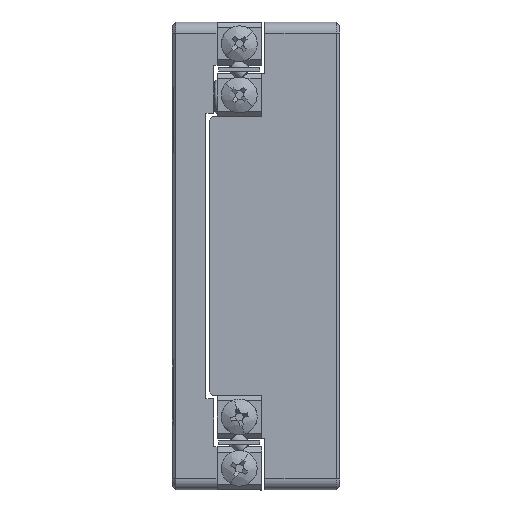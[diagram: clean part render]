
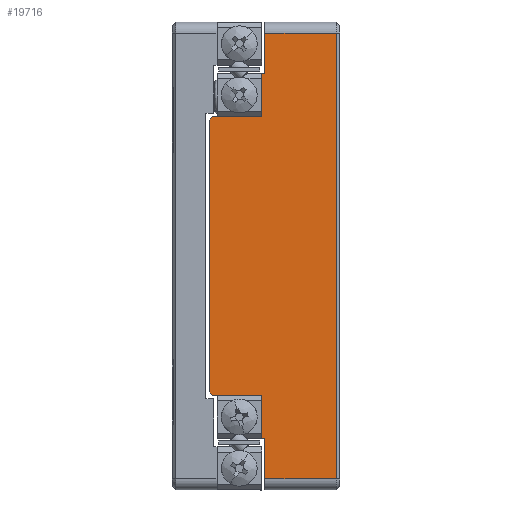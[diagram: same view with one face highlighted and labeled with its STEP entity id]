
A CAD part, left-side view. The second image highlights one B-rep face of the part: STEP entity #19716.
In plain terms, the highlighted planar face has unit normal (-1, 0, 0).
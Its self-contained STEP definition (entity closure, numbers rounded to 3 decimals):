
#44 = CARTESIAN_POINT ( 'NONE',  ( -21.5, 7., -12.5 ) ) ;
#712 = DIRECTION ( 'NONE',  ( 0., 0., -1. ) ) ;
#1118 = DIRECTION ( 'NONE',  ( 0., 0., 1. ) ) ;
#1147 = VERTEX_POINT ( 'NONE', #15265 ) ;
#1236 = VERTEX_POINT ( 'NONE', #12404 ) ;
#1288 = VECTOR ( 'NONE', #9066, 1000. ) ;
#1304 = LINE ( 'NONE', #5877, #34697 ) ;
#1536 = EDGE_CURVE ( 'NONE', #8745, #8864, #7477, .T. ) ;
#1618 = VECTOR ( 'NONE', #12950, 1000. ) ;
#1656 = EDGE_CURVE ( 'NONE', #11144, #1236, #36892, .T. ) ;
#1826 = VECTOR ( 'NONE', #1118, 1000. ) ;
#1856 = CARTESIAN_POINT ( 'NONE',  ( -21.5, 6.7, -20. ) ) ;
#1911 = CARTESIAN_POINT ( 'NONE',  ( -21.5, 11.7, 16.4 ) ) ;
#2391 = VECTOR ( 'NONE', #14962, 1000. ) ;
#2721 = ORIENTED_EDGE ( 'NONE', *, *, #36477, .F. ) ;
#3009 = CARTESIAN_POINT ( 'NONE',  ( -21.5, 7., 16.4 ) ) ;
#3354 = CARTESIAN_POINT ( 'NONE',  ( -21.5, 7., 12.5 ) ) ;
#3405 = LINE ( 'NONE', #5096, #17633 ) ;
#3889 = DIRECTION ( 'NONE',  ( 0., 1., 0. ) ) ;
#3952 = VERTEX_POINT ( 'NONE', #34013 ) ;
#5096 = CARTESIAN_POINT ( 'NONE',  ( -21.5, 7., 21. ) ) ;
#5516 = DIRECTION ( 'NONE',  ( 0., 0., 1. ) ) ;
#5750 = DIRECTION ( 'NONE',  ( 0., 0., 1. ) ) ;
#5877 = CARTESIAN_POINT ( 'NONE',  ( -21.5, 7., 21. ) ) ;
#5999 = VERTEX_POINT ( 'NONE', #26966 ) ;
#6098 = CARTESIAN_POINT ( 'NONE',  ( -21.5, 0.3, 21. ) ) ;
#6237 = CARTESIAN_POINT ( 'NONE',  ( -21.5, 11.7, -16.4 ) ) ;
#6243 = VERTEX_POINT ( 'NONE', #11399 ) ;
#6409 = PLANE ( 'NONE',  #18666 ) ;
#6796 = LINE ( 'NONE', #25174, #22384 ) ;
#6819 = CARTESIAN_POINT ( 'NONE',  ( -21.5, 11.7, 20. ) ) ;
#6894 = VERTEX_POINT ( 'NONE', #19385 ) ;
#7469 = VECTOR ( 'NONE', #3889, 1000. ) ;
#7477 = LINE ( 'NONE', #34907, #31125 ) ;
#7538 = CARTESIAN_POINT ( 'NONE',  ( -21.5, 7., -16.4 ) ) ;
#7617 = ORIENTED_EDGE ( 'NONE', *, *, #19081, .F. ) ;
#8745 = VERTEX_POINT ( 'NONE', #1856 ) ;
#8864 = VERTEX_POINT ( 'NONE', #13912 ) ;
#9066 = DIRECTION ( 'NONE',  ( 0., -0.707, 0.707 ) ) ;
#9224 = VERTEX_POINT ( 'NONE', #7538 ) ;
#9300 = VECTOR ( 'NONE', #13470, 1000. ) ;
#9543 = VECTOR ( 'NONE', #9670, 1000. ) ;
#9670 = DIRECTION ( 'NONE',  ( 0., 1., 0. ) ) ;
#9908 = EDGE_CURVE ( 'NONE', #5999, #8745, #20905, .T. ) ;
#10400 = ORIENTED_EDGE ( 'NONE', *, *, #10562, .F. ) ;
#10562 = EDGE_CURVE ( 'NONE', #17550, #11144, #1304, .T. ) ;
#10742 = DIRECTION ( 'NONE',  ( 0., 0., 1. ) ) ;
#11144 = VERTEX_POINT ( 'NONE', #3009 ) ;
#11158 = DIRECTION ( 'NONE',  ( 0., 0.707, 0.707 ) ) ;
#11399 = CARTESIAN_POINT ( 'NONE',  ( -21.5, 11.7, -12.2 ) ) ;
#12033 = ORIENTED_EDGE ( 'NONE', *, *, #13484, .F. ) ;
#12404 = CARTESIAN_POINT ( 'NONE',  ( -21.5, 6.7, 16.4 ) ) ;
#12950 = DIRECTION ( 'NONE',  ( 0., -1., 0. ) ) ;
#12992 = DIRECTION ( 'NONE',  ( 0., -1., 0. ) ) ;
#13057 = ORIENTED_EDGE ( 'NONE', *, *, #9908, .F. ) ;
#13470 = DIRECTION ( 'NONE',  ( 0., 1., 0. ) ) ;
#13484 = EDGE_CURVE ( 'NONE', #1236, #16891, #15227, .T. ) ;
#13834 = CARTESIAN_POINT ( 'NONE',  ( -21.5, 11.7, -20. ) ) ;
#13912 = CARTESIAN_POINT ( 'NONE',  ( -21.5, 6.7, -16.4 ) ) ;
#14483 = LINE ( 'NONE', #6819, #1618 ) ;
#14895 = DIRECTION ( 'NONE',  ( 1., 0., 0. ) ) ;
#14962 = DIRECTION ( 'NONE',  ( 0., 0., -1. ) ) ;
#15227 = LINE ( 'NONE', #16953, #30379 ) ;
#15265 = CARTESIAN_POINT ( 'NONE',  ( -21.5, 11.7, 12.2 ) ) ;
#16891 = VERTEX_POINT ( 'NONE', #25348 ) ;
#16953 = CARTESIAN_POINT ( 'NONE',  ( -21.5, 6.7, 0. ) ) ;
#17550 = VERTEX_POINT ( 'NONE', #3354 ) ;
#17633 = VECTOR ( 'NONE', #10742, 1000. ) ;
#17692 = LINE ( 'NONE', #31523, #1288 ) ;
#18107 = ORIENTED_EDGE ( 'NONE', *, *, #33041, .F. ) ;
#18140 = CARTESIAN_POINT ( 'NONE',  ( -21.5, 11.7, 21. ) ) ;
#18200 = EDGE_CURVE ( 'NONE', #34508, #3952, #20224, .T. ) ;
#18404 = LINE ( 'NONE', #6098, #2391 ) ;
#18453 = ORIENTED_EDGE ( 'NONE', *, *, #35377, .F. ) ;
#18666 = AXIS2_PLACEMENT_3D ( 'NONE', #31961, #14895, #712 ) ;
#19081 = EDGE_CURVE ( 'NONE', #1147, #6894, #17692, .T. ) ;
#19155 = LINE ( 'NONE', #18140, #1826 ) ;
#19385 = CARTESIAN_POINT ( 'NONE',  ( -21.5, 11.4, 12.5 ) ) ;
#19716 = ADVANCED_FACE ( 'NONE', ( #34234 ), #6409, .F. ) ;
#20224 = LINE ( 'NONE', #20987, #9543 ) ;
#20464 = DIRECTION ( 'NONE',  ( 0., -1., 0. ) ) ;
#20905 = LINE ( 'NONE', #13834, #9300 ) ;
#20987 = CARTESIAN_POINT ( 'NONE',  ( -21.5, 11.7, -12.5 ) ) ;
#21954 = ORIENTED_EDGE ( 'NONE', *, *, #35018, .F. ) ;
#22384 = VECTOR ( 'NONE', #11158, 1000. ) ;
#22428 = ORIENTED_EDGE ( 'NONE', *, *, #18200, .F. ) ;
#23890 = EDGE_LOOP ( 'NONE', ( #7617, #30365, #25965, #22428, #21954, #30915, #24946, #13057, #2721, #18453, #12033, #35479, #10400, #18107 ) ) ;
#24864 = LINE ( 'NONE', #31804, #32456 ) ;
#24946 = ORIENTED_EDGE ( 'NONE', *, *, #1536, .F. ) ;
#25174 = CARTESIAN_POINT ( 'NONE',  ( -21.5, 11.4, -12.5 ) ) ;
#25348 = CARTESIAN_POINT ( 'NONE',  ( -21.5, 6.7, 20. ) ) ;
#25965 = ORIENTED_EDGE ( 'NONE', *, *, #31305, .F. ) ;
#26538 = EDGE_CURVE ( 'NONE', #6243, #1147, #19155, .T. ) ;
#26966 = CARTESIAN_POINT ( 'NONE',  ( -21.5, 0.3, -20. ) ) ;
#27585 = VERTEX_POINT ( 'NONE', #29647 ) ;
#28022 = EDGE_CURVE ( 'NONE', #8864, #9224, #30191, .T. ) ;
#28413 = VECTOR ( 'NONE', #12992, 1000. ) ;
#29647 = CARTESIAN_POINT ( 'NONE',  ( -21.5, 0.3, 20. ) ) ;
#30191 = LINE ( 'NONE', #6237, #7469 ) ;
#30365 = ORIENTED_EDGE ( 'NONE', *, *, #26538, .F. ) ;
#30379 = VECTOR ( 'NONE', #5750, 1000. ) ;
#30915 = ORIENTED_EDGE ( 'NONE', *, *, #28022, .F. ) ;
#31125 = VECTOR ( 'NONE', #32164, 1000. ) ;
#31305 = EDGE_CURVE ( 'NONE', #3952, #6243, #6796, .T. ) ;
#31523 = CARTESIAN_POINT ( 'NONE',  ( -21.5, 11.4, 12.5 ) ) ;
#31804 = CARTESIAN_POINT ( 'NONE',  ( -21.5, 11.7, 12.5 ) ) ;
#31961 = CARTESIAN_POINT ( 'NONE',  ( -21.5, 11.7, 21. ) ) ;
#32164 = DIRECTION ( 'NONE',  ( 0., 0., 1. ) ) ;
#32456 = VECTOR ( 'NONE', #20464, 1000. ) ;
#33041 = EDGE_CURVE ( 'NONE', #6894, #17550, #24864, .T. ) ;
#34013 = CARTESIAN_POINT ( 'NONE',  ( -21.5, 11.4, -12.5 ) ) ;
#34234 = FACE_OUTER_BOUND ( 'NONE', #23890, .T. ) ;
#34508 = VERTEX_POINT ( 'NONE', #44 ) ;
#34697 = VECTOR ( 'NONE', #5516, 1000. ) ;
#34907 = CARTESIAN_POINT ( 'NONE',  ( -21.5, 6.7, 0. ) ) ;
#35018 = EDGE_CURVE ( 'NONE', #9224, #34508, #3405, .T. ) ;
#35377 = EDGE_CURVE ( 'NONE', #16891, #27585, #14483, .T. ) ;
#35479 = ORIENTED_EDGE ( 'NONE', *, *, #1656, .F. ) ;
#36477 = EDGE_CURVE ( 'NONE', #27585, #5999, #18404, .T. ) ;
#36892 = LINE ( 'NONE', #1911, #28413 ) ;
